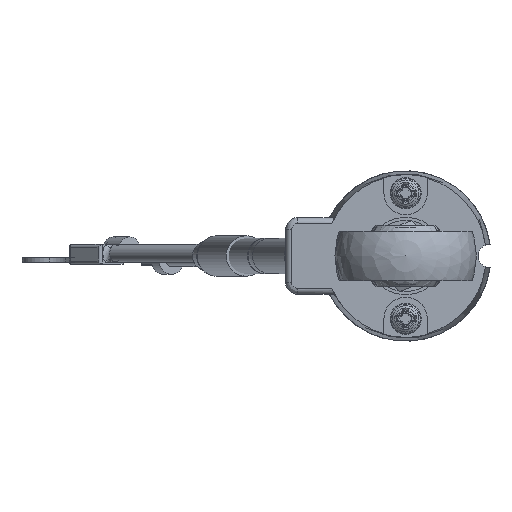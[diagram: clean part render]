
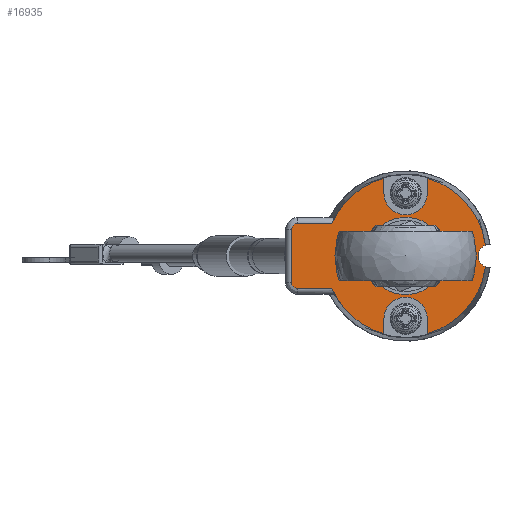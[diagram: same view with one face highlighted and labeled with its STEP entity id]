
A CAD part, left-side view. The second image highlights one B-rep face of the part: STEP entity #16935.
In plain terms, the highlighted planar face has unit normal (-1, 0, 0).
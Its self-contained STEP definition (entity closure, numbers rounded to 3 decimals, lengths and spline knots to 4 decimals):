
#1690=ELLIPSE('',#18049,0.03,0.03);
#1691=ELLIPSE('',#18053,0.03,0.03);
#1706=FACE_BOUND('',#2909,.T.);
#1841=PLANE('',#18055);
#2139=FACE_OUTER_BOUND('',#2908,.T.);
#2908=EDGE_LOOP('',(#10745,#10746,#10747,#10748,#10749,#10750,#10751,#10752,
#10753,#10754,#10755,#10756,#10757,#10758,#10759,#10760));
#2909=EDGE_LOOP('',(#10761));
#3724=LINE('',#23339,#4346);
#3725=LINE('',#23371,#4347);
#3726=LINE('',#23414,#4348);
#3727=LINE('',#23421,#4349);
#3728=LINE('',#23425,#4350);
#3729=LINE('',#23433,#4351);
#3730=LINE('',#23436,#4352);
#4346=VECTOR('',#19780,0.3937);
#4347=VECTOR('',#19789,0.3937);
#4348=VECTOR('',#19796,0.3937);
#4349=VECTOR('',#19803,0.3937);
#4350=VECTOR('',#19806,0.3937);
#4351=VECTOR('',#19813,0.3937);
#4352=VECTOR('',#19816,0.3937);
#4940=CIRCLE('',#18018,0.105);
#4953=CIRCLE('',#18056,0.41);
#4954=CIRCLE('',#18057,0.41);
#4955=CIRCLE('',#18058,0.11);
#4956=CIRCLE('',#18059,0.41);
#4957=CIRCLE('',#18060,0.06);
#4958=CIRCLE('',#18061,0.41);
#4959=CIRCLE('',#18062,0.11);
#5599=VERTEX_POINT('',#23180);
#5622=VERTEX_POINT('',#23323);
#5623=VERTEX_POINT('',#23325);
#5624=VERTEX_POINT('',#23365);
#5625=VERTEX_POINT('',#23369);
#5626=VERTEX_POINT('',#23397);
#5627=VERTEX_POINT('',#23401);
#5628=VERTEX_POINT('',#23416);
#5629=VERTEX_POINT('',#23418);
#5630=VERTEX_POINT('',#23420);
#5631=VERTEX_POINT('',#23422);
#5632=VERTEX_POINT('',#23424);
#5633=VERTEX_POINT('',#23426);
#5634=VERTEX_POINT('',#23428);
#5635=VERTEX_POINT('',#23430);
#5636=VERTEX_POINT('',#23432);
#5637=VERTEX_POINT('',#23434);
#7726=EDGE_CURVE('',#5599,#5599,#4940,.T.);
#7764=EDGE_CURVE('',#5623,#5622,#3724,.T.);
#7766=EDGE_CURVE('',#5622,#5624,#1690,.T.);
#7768=EDGE_CURVE('',#5624,#5625,#3725,.T.);
#7770=EDGE_CURVE('',#5625,#5626,#1691,.T.);
#7772=EDGE_CURVE('',#5626,#5627,#3726,.T.);
#7773=EDGE_CURVE('',#5627,#5628,#4953,.T.);
#7774=EDGE_CURVE('',#5629,#5623,#4954,.T.);
#7775=EDGE_CURVE('',#5629,#5630,#3727,.T.);
#7776=EDGE_CURVE('',#5630,#5631,#4955,.T.);
#7777=EDGE_CURVE('',#5631,#5632,#3728,.T.);
#7778=EDGE_CURVE('',#5633,#5632,#4956,.T.);
#7779=EDGE_CURVE('',#5633,#5634,#4957,.T.);
#7780=EDGE_CURVE('',#5635,#5634,#4958,.T.);
#7781=EDGE_CURVE('',#5635,#5636,#3729,.T.);
#7782=EDGE_CURVE('',#5636,#5637,#4959,.T.);
#7783=EDGE_CURVE('',#5637,#5628,#3730,.T.);
#10745=ORIENTED_EDGE('',*,*,#7773,.F.);
#10746=ORIENTED_EDGE('',*,*,#7772,.F.);
#10747=ORIENTED_EDGE('',*,*,#7770,.F.);
#10748=ORIENTED_EDGE('',*,*,#7768,.F.);
#10749=ORIENTED_EDGE('',*,*,#7766,.F.);
#10750=ORIENTED_EDGE('',*,*,#7764,.F.);
#10751=ORIENTED_EDGE('',*,*,#7774,.F.);
#10752=ORIENTED_EDGE('',*,*,#7775,.T.);
#10753=ORIENTED_EDGE('',*,*,#7776,.T.);
#10754=ORIENTED_EDGE('',*,*,#7777,.T.);
#10755=ORIENTED_EDGE('',*,*,#7778,.F.);
#10756=ORIENTED_EDGE('',*,*,#7779,.T.);
#10757=ORIENTED_EDGE('',*,*,#7780,.F.);
#10758=ORIENTED_EDGE('',*,*,#7781,.T.);
#10759=ORIENTED_EDGE('',*,*,#7782,.T.);
#10760=ORIENTED_EDGE('',*,*,#7783,.T.);
#10761=ORIENTED_EDGE('',*,*,#7726,.T.);
#16935=ADVANCED_FACE('',(#2139,#1706),#1841,.T.);
#18018=AXIS2_PLACEMENT_3D('',#23181,#19705,#19706);
#18049=AXIS2_PLACEMENT_3D('',#23367,#19783,#19784);
#18053=AXIS2_PLACEMENT_3D('',#23399,#19792,#19793);
#18055=AXIS2_PLACEMENT_3D('',#23415,#19797,#19798);
#18056=AXIS2_PLACEMENT_3D('',#23417,#19799,#19800);
#18057=AXIS2_PLACEMENT_3D('',#23419,#19801,#19802);
#18058=AXIS2_PLACEMENT_3D('',#23423,#19804,#19805);
#18059=AXIS2_PLACEMENT_3D('',#23427,#19807,#19808);
#18060=AXIS2_PLACEMENT_3D('',#23429,#19809,#19810);
#18061=AXIS2_PLACEMENT_3D('',#23431,#19811,#19812);
#18062=AXIS2_PLACEMENT_3D('',#23435,#19814,#19815);
#19705=DIRECTION('center_axis',(1.,0.,0.));
#19706=DIRECTION('ref_axis',(0.,0.,1.));
#19780=DIRECTION('',(0.,1.,0.));
#19783=DIRECTION('center_axis',(1.,0.,0.));
#19784=DIRECTION('ref_axis',(0.,0.,
-1.));
#19789=DIRECTION('',(0.,0.,1.));
#19792=DIRECTION('center_axis',(1.,0.,0.));
#19793=DIRECTION('ref_axis',(0.,0.,
1.));
#19796=DIRECTION('',(0.,-1.,0.));
#19797=DIRECTION('center_axis',(-1.,0.,0.));
#19798=DIRECTION('ref_axis',(0.,0.,1.));
#19799=DIRECTION('center_axis',(1.,0.,0.));
#19800=DIRECTION('ref_axis',(0.,1.,0.));
#19801=DIRECTION('center_axis',(1.,0.,0.));
#19802=DIRECTION('ref_axis',(0.,1.,0.));
#19803=DIRECTION('',(0.,0.,1.));
#19804=DIRECTION('center_axis',(1.,0.,0.));
#19805=DIRECTION('ref_axis',(0.,-1.,0.));
#19806=DIRECTION('',(0.,0.,-1.));
#19807=DIRECTION('center_axis',(1.,0.,0.));
#19808=DIRECTION('ref_axis',(0.,1.,0.));
#19809=DIRECTION('center_axis',(1.,0.,0.));
#19810=DIRECTION('ref_axis',(0.,0.,-1.));
#19811=DIRECTION('center_axis',(1.,0.,0.));
#19812=DIRECTION('ref_axis',(0.,1.,0.));
#19813=DIRECTION('',(0.,0.,-1.));
#19814=DIRECTION('center_axis',(1.,0.,0.));
#19815=DIRECTION('ref_axis',(0.,1.,0.));
#19816=DIRECTION('',(0.,0.,1.));
#23180=CARTESIAN_POINT('',(-0.2209,0.,-0.105));
#23181=CARTESIAN_POINT('Origin',(-0.2209,0.,0.));
#23323=CARTESIAN_POINT('',(-0.2209,0.55,-0.1649));
#23325=CARTESIAN_POINT('',(-0.2209,0.3754,-0.1649));
#23339=CARTESIAN_POINT('',(-0.2209,0.2825,-0.1649));
#23365=CARTESIAN_POINT('',(-0.2209,0.58,-0.1349));
#23367=CARTESIAN_POINT('Origin',(-0.2209,0.55,-0.1349));
#23369=CARTESIAN_POINT('',(-0.2209,0.58,0.1349));
#23371=CARTESIAN_POINT('',(-0.2209,0.58,-0.044));
#23397=CARTESIAN_POINT('',(-0.2209,0.55,0.1649));
#23399=CARTESIAN_POINT('Origin',(-0.2209,0.55,0.1349));
#23401=CARTESIAN_POINT('',(-0.2209,0.3754,0.1649));
#23414=CARTESIAN_POINT('',(-0.2209,0.2825,0.1649));
#23415=CARTESIAN_POINT('Origin',(-0.2209,0.205,0.));
#23416=CARTESIAN_POINT('',(-0.2209,0.11,0.395));
#23417=CARTESIAN_POINT('Origin',(-0.2209,0.,0.));
#23418=CARTESIAN_POINT('',(-0.2209,0.11,-0.395));
#23419=CARTESIAN_POINT('Origin',(-0.2209,0.,0.));
#23420=CARTESIAN_POINT('',(-0.2209,0.11,-0.3193));
#23421=CARTESIAN_POINT('',(-0.2209,0.11,-0.1596));
#23422=CARTESIAN_POINT('',(-0.2209,-0.11,-0.3193));
#23423=CARTESIAN_POINT('Origin',(-0.2209,0.,-0.3193));
#23424=CARTESIAN_POINT('',(-0.2209,-0.11,-0.395));
#23425=CARTESIAN_POINT('',(-0.2209,-0.11,-0.2243));
#23426=CARTESIAN_POINT('',(-0.2209,-0.4062,-0.0556));
#23427=CARTESIAN_POINT('Origin',(-0.2209,0.,0.));
#23428=CARTESIAN_POINT('',(-0.2209,-0.4062,0.0556));
#23429=CARTESIAN_POINT('Origin',(-0.2209,-0.4289,0.));
#23430=CARTESIAN_POINT('',(-0.2209,-0.11,0.395));
#23431=CARTESIAN_POINT('Origin',(-0.2209,0.,0.));
#23432=CARTESIAN_POINT('',(-0.2209,-0.11,0.3193));
#23433=CARTESIAN_POINT('',(-0.2209,-0.11,0.1596));
#23434=CARTESIAN_POINT('',(-0.2209,0.11,0.3193));
#23435=CARTESIAN_POINT('Origin',(-0.2209,0.,0.3193));
#23436=CARTESIAN_POINT('',(-0.2209,0.11,0.2243));
